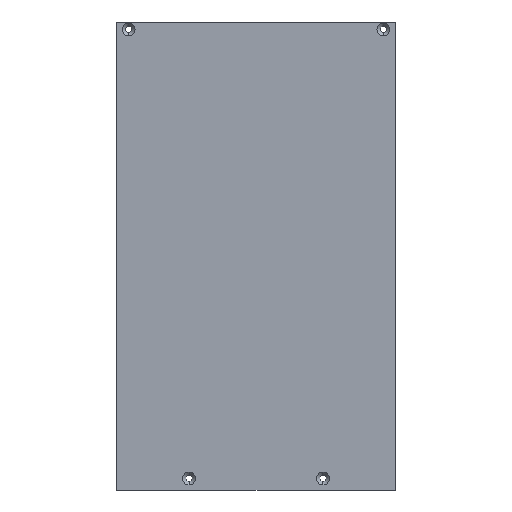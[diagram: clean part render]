
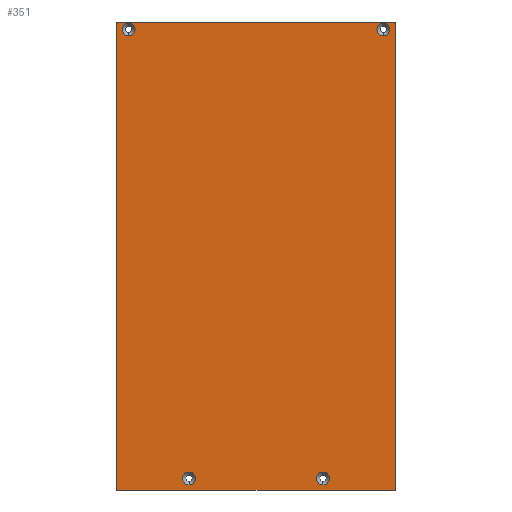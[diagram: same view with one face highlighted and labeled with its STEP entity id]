
A CAD part, top view. The second image highlights one B-rep face of the part: STEP entity #351.
In plain terms, the highlighted planar face has unit normal (0, -0.045, 0.999).
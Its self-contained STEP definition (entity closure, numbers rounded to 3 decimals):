
#1=DIRECTION('',(0.,0.999,0.045));
#2=VECTOR('',#1,244.673);
#3=CARTESIAN_POINT('',(72.85,25.06,61.124));
#4=LINE('',#3,#2);
#17=DIRECTION('',(1.,0.,0.));
#18=VECTOR('',#17,145.7);
#19=CARTESIAN_POINT('',(-72.85,269.488,72.086));
#20=LINE('',#19,#18);
#21=CARTESIAN_POINT('',(-66.574,265.638,71.913));
#22=DIRECTION('',(0.,-0.045,0.999));
#23=DIRECTION('',(0.,-0.999,-0.045));
#24=AXIS2_PLACEMENT_3D('',#21,#22,#23);
#26=CARTESIAN_POINT('',(-66.574,265.638,71.913));
#27=DIRECTION('',(0.,-0.045,0.999));
#28=DIRECTION('',(0.,0.999,0.045));
#29=AXIS2_PLACEMENT_3D('',#26,#27,#28);
#31=CARTESIAN_POINT('',(35.,31.081,61.394));
#32=DIRECTION('',(0.,-0.045,0.999));
#33=DIRECTION('',(0.,-0.999,-0.045));
#34=AXIS2_PLACEMENT_3D('',#31,#32,#33);
#36=CARTESIAN_POINT('',(35.,31.081,61.394));
#37=DIRECTION('',(0.,-0.045,0.999));
#38=DIRECTION('',(0.,0.999,0.045));
#39=AXIS2_PLACEMENT_3D('',#36,#37,#38);
#41=CARTESIAN_POINT('',(-35.,31.081,61.394));
#42=DIRECTION('',(0.,-0.045,0.999));
#43=DIRECTION('',(0.,-0.999,-0.045));
#44=AXIS2_PLACEMENT_3D('',#41,#42,#43);
#46=CARTESIAN_POINT('',(-35.,31.081,61.394));
#47=DIRECTION('',(0.,-0.045,0.999));
#48=DIRECTION('',(0.,0.999,0.045));
#49=AXIS2_PLACEMENT_3D('',#46,#47,#48);
#51=CARTESIAN_POINT('',(66.574,265.638,71.913));
#52=DIRECTION('',(0.,-0.045,0.999));
#53=DIRECTION('',(0.,-0.999,-0.045));
#54=AXIS2_PLACEMENT_3D('',#51,#52,#53);
#56=CARTESIAN_POINT('',(66.574,265.638,71.913));
#57=DIRECTION('',(0.,-0.045,0.999));
#58=DIRECTION('',(0.,0.999,0.045));
#59=AXIS2_PLACEMENT_3D('',#56,#57,#58);
#73=DIRECTION('',(0.,-0.999,-0.045));
#74=VECTOR('',#73,244.673);
#75=CARTESIAN_POINT('',(-72.85,269.488,72.086));
#76=LINE('',#75,#74);
#77=DIRECTION('',(1.,0.,0.));
#78=VECTOR('',#77,145.7);
#79=CARTESIAN_POINT('',(-72.85,25.06,61.124));
#80=LINE('',#79,#78);
#233=CARTESIAN_POINT('',(72.85,25.06,61.124));
#234=CARTESIAN_POINT('',(72.85,269.488,72.086));
#235=VERTEX_POINT('',#233);
#236=VERTEX_POINT('',#234);
#241=CARTESIAN_POINT('',(-72.85,269.488,72.086));
#242=CARTESIAN_POINT('',(-72.85,25.06,61.124));
#243=VERTEX_POINT('',#241);
#244=VERTEX_POINT('',#242);
#245=CARTESIAN_POINT('',(-66.574,262.281,71.762));
#246=CARTESIAN_POINT('',(-66.574,268.994,72.064));
#247=VERTEX_POINT('',#245);
#248=VERTEX_POINT('',#246);
#249=CARTESIAN_POINT('',(35.,27.725,61.243));
#250=CARTESIAN_POINT('',(35.,34.438,61.544));
#251=VERTEX_POINT('',#249);
#252=VERTEX_POINT('',#250);
#253=CARTESIAN_POINT('',(-35.,27.725,61.243));
#254=CARTESIAN_POINT('',(-35.,34.438,61.544));
#255=VERTEX_POINT('',#253);
#256=VERTEX_POINT('',#254);
#257=CARTESIAN_POINT('',(66.574,262.281,71.762));
#258=CARTESIAN_POINT('',(66.574,268.994,72.064));
#259=VERTEX_POINT('',#257);
#260=VERTEX_POINT('',#258);
#313=CARTESIAN_POINT('',(-73.,269.638,72.092));
#314=DIRECTION('',(0.,-0.045,0.999));
#315=DIRECTION('',(1.,0.,0.));
#316=AXIS2_PLACEMENT_3D('',#313,#314,#315);
#317=PLANE('',#316);
#319=ORIENTED_EDGE('',*,*,#318,.F.);
#321=ORIENTED_EDGE('',*,*,#320,.T.);
#322=ORIENTED_EDGE('',*,*,#302,.F.);
#324=ORIENTED_EDGE('',*,*,#323,.F.);
#325=EDGE_LOOP('',(#319,#321,#322,#324));
#326=FACE_OUTER_BOUND('',#325,.F.);
#328=ORIENTED_EDGE('',*,*,#327,.T.);
#330=ORIENTED_EDGE('',*,*,#329,.T.);
#331=EDGE_LOOP('',(#328,#330));
#332=FACE_BOUND('',#331,.F.);
#334=ORIENTED_EDGE('',*,*,#333,.T.);
#336=ORIENTED_EDGE('',*,*,#335,.T.);
#337=EDGE_LOOP('',(#334,#336));
#338=FACE_BOUND('',#337,.F.);
#340=ORIENTED_EDGE('',*,*,#339,.T.);
#342=ORIENTED_EDGE('',*,*,#341,.T.);
#343=EDGE_LOOP('',(#340,#342));
#344=FACE_BOUND('',#343,.F.);
#346=ORIENTED_EDGE('',*,*,#345,.T.);
#348=ORIENTED_EDGE('',*,*,#347,.T.);
#349=EDGE_LOOP('',(#346,#348));
#350=FACE_BOUND('',#349,.F.);
#351=ADVANCED_FACE('',(#326,#332,#338,#344,#350),#317,.T.);
#25=CIRCLE('',#24,3.36);
#30=CIRCLE('',#29,3.36);
#35=CIRCLE('',#34,3.36);
#40=CIRCLE('',#39,3.36);
#45=CIRCLE('',#44,3.36);
#50=CIRCLE('',#49,3.36);
#55=CIRCLE('',#54,3.36);
#60=CIRCLE('',#59,3.36);
#302=EDGE_CURVE('',#235,#236,#4,.T.);
#318=EDGE_CURVE('',#243,#244,#76,.T.);
#320=EDGE_CURVE('',#243,#236,#20,.T.);
#323=EDGE_CURVE('',#244,#235,#80,.T.);
#327=EDGE_CURVE('',#247,#248,#25,.T.);
#329=EDGE_CURVE('',#248,#247,#30,.T.);
#333=EDGE_CURVE('',#251,#252,#35,.T.);
#335=EDGE_CURVE('',#252,#251,#40,.T.);
#339=EDGE_CURVE('',#255,#256,#45,.T.);
#341=EDGE_CURVE('',#256,#255,#50,.T.);
#345=EDGE_CURVE('',#259,#260,#55,.T.);
#347=EDGE_CURVE('',#260,#259,#60,.T.);
